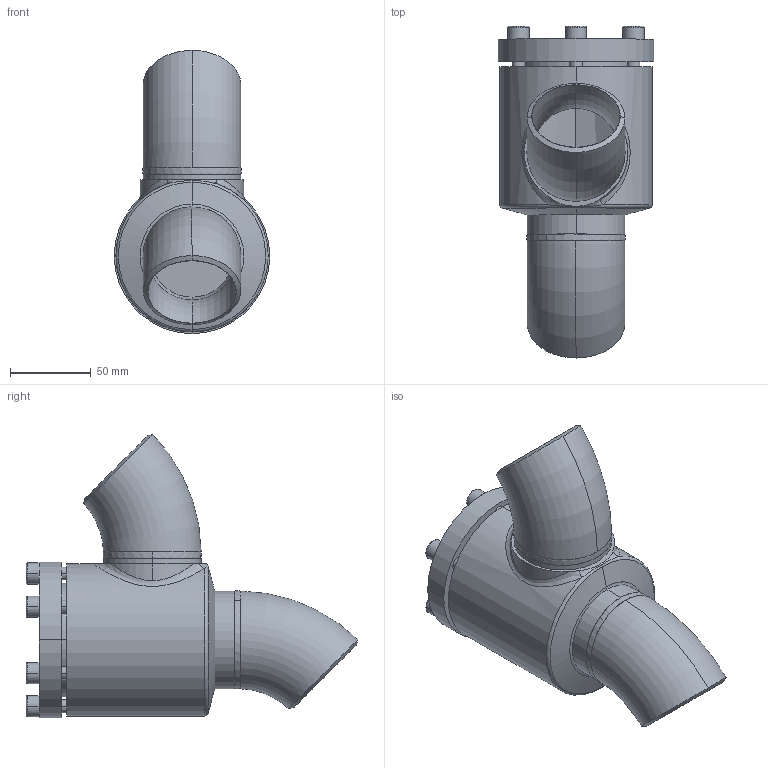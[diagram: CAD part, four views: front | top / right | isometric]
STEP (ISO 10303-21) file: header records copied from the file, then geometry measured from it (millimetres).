
FILE_DESCRIPTION (( 'STEP AP214' ), '1' );
FILE_NAME ('SS52300D15-DN050_R1_PS40.STEP', '2006-05-02T05:43:50', ( 'Herr Grams' ), ( 'AWP GmbH' ), 'SwSTEP 2.0', 'SolidWorks 2002296', '' );
FILE_SCHEMA (( 'AUTOMOTIVE_DESIGN' ));
Length unit declared in the file: millimetre
Products named in the file (9): SS52300D15-DN050_R1_PS40; Gehäuse-kpl16300-DN050_R1_Standard; Gehäuse16300-DN050_Standard; Rohrbogen 45°_R1-Fase_Rohrbogen-DN050-45°; bead16300-Geh-050-2_Standard; bead16300-Geh-050-1_Standard; SS52300E15_Deck+Schr-DN40-50_Standard; Deckel52300E15-DN40-50_Standard; Zylinderschraube-DIN912_M 8x 25
Assembly tree (14 placements, depth 3):
  SS52300D15-DN050_R1_PS40
    Gehäuse-kpl16300-DN050_R1_Standard
      Rohrbogen 45°_R1-Fase_Rohrbogen-DN050-45°  x2
      bead16300-Geh-050-2_Standard
      bead16300-Geh-050-1_Standard
      Gehäuse16300-DN050_Standard
    SS52300E15_Deck+Schr-DN40-50_Standard
      Zylinderschraube-DIN912_M 8x 25  x6
      Deckel52300E15-DN40-50_Standard
Bounding box: 96 x 204.93 x 174.93 mm (x, y, z)
Volume: 468925.9 mm3; surface area: 140178.6 mm2
Topology: 12 solids, 12 shells, 206 faces, 459 edges, 289 vertices
Faces by surface type: plane 74, cylinder 59, cone 40, torus 22, bspline 11
Entity records: 33149 total; most frequent: CARTESIAN_POINT 30193, DIRECTION 524, ORIENTED_EDGE 494, EDGE_CURVE 247, AXIS2_PLACEMENT_3D 221, VERTEX_POINT 155, EDGE_LOOP 130, CIRCLE 107
